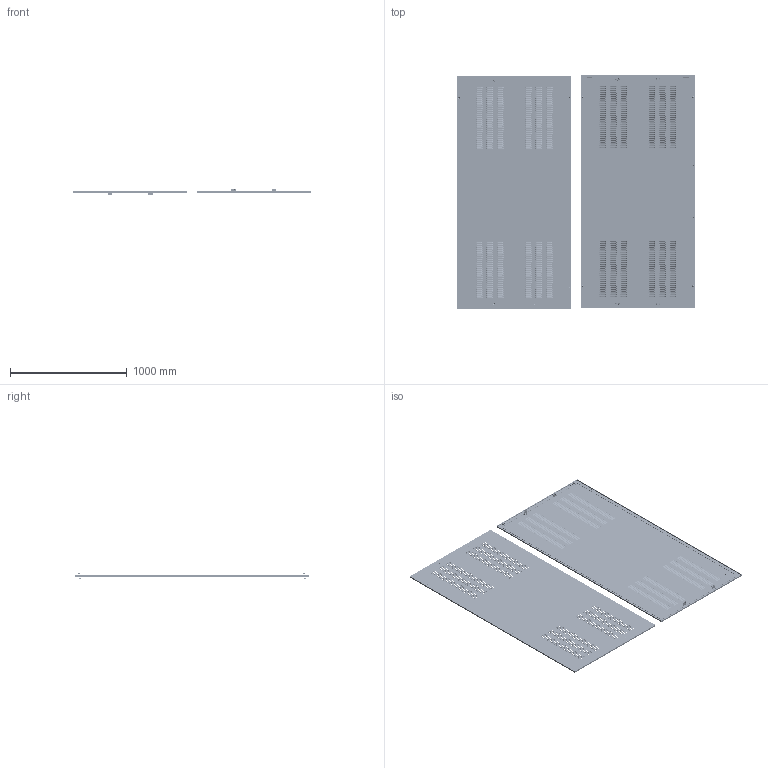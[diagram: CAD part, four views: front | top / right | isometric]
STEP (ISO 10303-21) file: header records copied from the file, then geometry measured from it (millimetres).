
FILE_DESCRIPTION (( 'STEP AP214' ), '1' );
FILE_NAME ('FO-00-PSV-200-100-31 Ïàíåëü áîêîâàÿ âåíòèëèðóåìàÿ 2000õ1000ìì IP31 (êîìïë).STEP', '2025-08-20T08:30:10', ( '' ), ( '' ), 'SwSTEP 2.0', 'SolidWorks 2023', '' );
FILE_SCHEMA (( 'AUTOMOTIVE_DESIGN' ));
Length unit declared in the file: millimetre
Products named in the file (2): FO-00-PSV-200-100-31 Панель боковая вентилируемая 2000х1000мм IP31; FO-00-PSV-200-100-31 Панель боковая вентилируемая 2000х1000мм IP31 (компл)
Assembly tree (2 placements, depth 2):
  FO-00-PSV-200-100-31 Панель боковая вентилируемая 2000х1000мм IP31 (компл)
    FO-00-PSV-200-100-31 Панель боковая вентилируемая 2000х1000мм IP31  x2
Bounding box: 2037.69 x 2007.64 x 57.45 mm (x, y, z)
Volume: 6258615.2 mm3; surface area: 8480959.8 mm2
Topology: 2 solids, 2 shells, 12828 faces, 33508 edges, 20876 vertices
Faces by surface type: torus 5552, cylinder 3792, plane 3202, cone 280, bspline 2
Entity records: 202684 total; most frequent: DIRECTION 41132, CARTESIAN_POINT 33674, ORIENTED_EDGE 33508, AXIS2_PLACEMENT_3D 17972, EDGE_CURVE 16754, CIRCLE 11554, VERTEX_POINT 10438, EDGE_LOOP 7198
